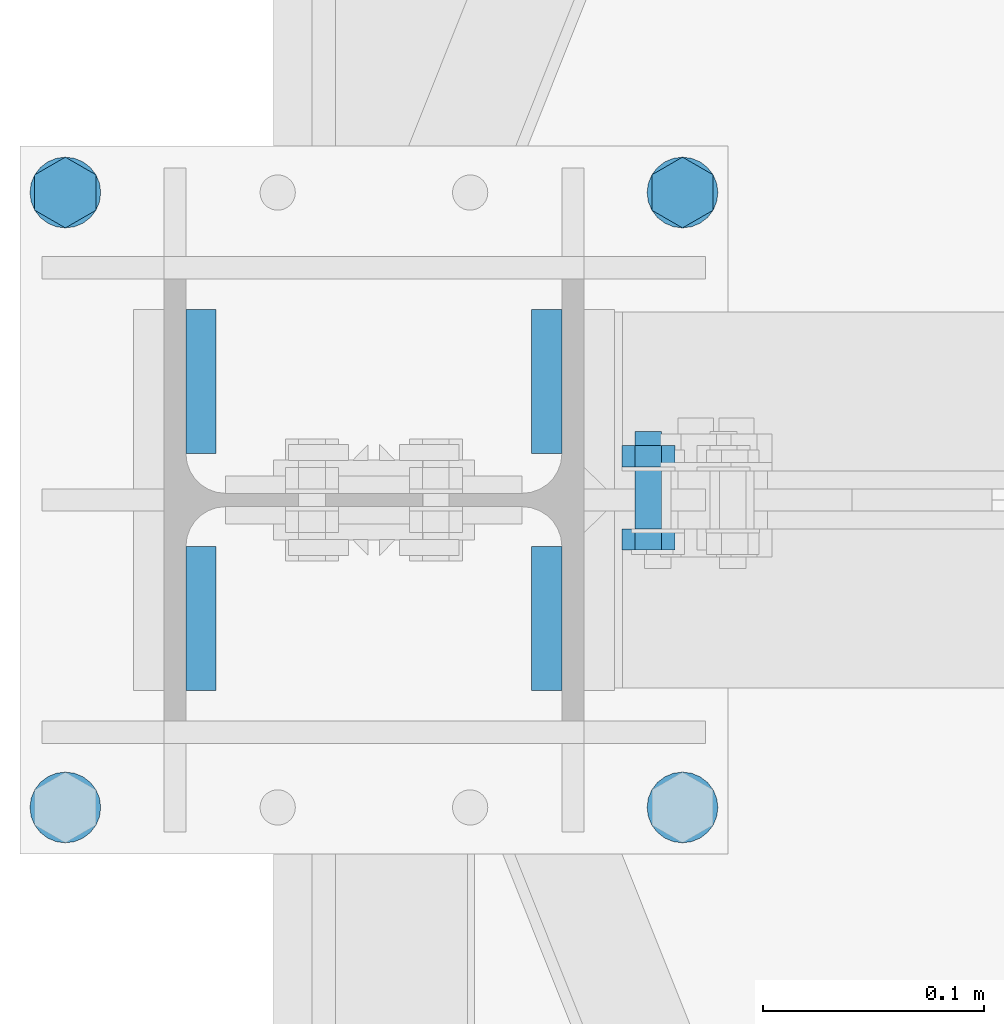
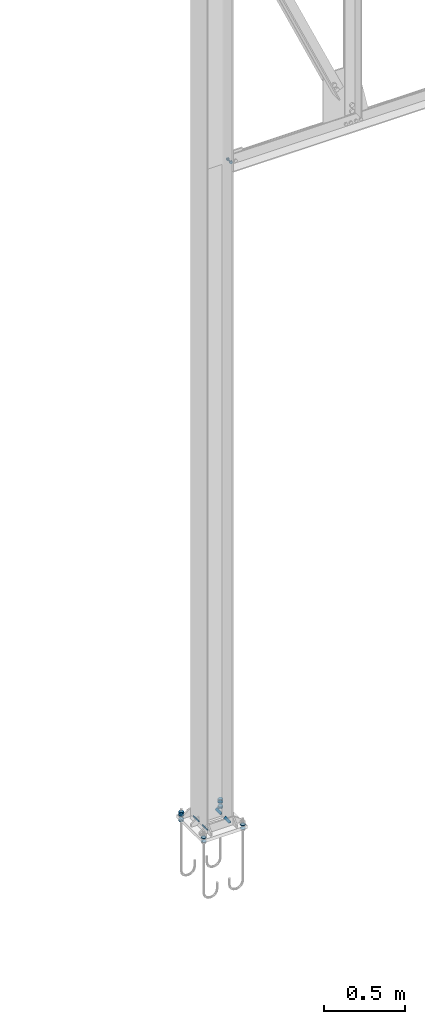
# One storey, part 73 of 251: 17 mechanical fasteners, 8 fasteners.
"""IFC4 building model written with IfcOpenShell, lengths in metres."""

from ifc_helpers import new_model, si_unit, frame, origin_with_axes, place, context, project, spatial, polyline, outline, extrude, type_object, element, save


model = new_model("IFC4")

# Units and contexts
model_context = context("Model", 3, precision=1e-05, world=origin_with_axes())
ifc_project = project(units=[si_unit("LENGTHUNIT", "METRE"), si_unit("AREAUNIT", "SQUARE_METRE"), si_unit("VOLUMEUNIT", "CUBIC_METRE"), si_unit("MASSUNIT", "GRAM", prefix="KILO"), si_unit("TIMEUNIT", "SECOND"), si_unit("PLANEANGLEUNIT", "RADIAN"), si_unit("SOLIDANGLEUNIT", "STERADIAN"), si_unit("THERMODYNAMICTEMPERATUREUNIT", "DEGREE_CELSIUS")], contexts=[model_context])

# Site, building, storey
placement_1 = place(None, origin_with_axes())
site = spatial("IfcSite", under=ifc_project, at=placement_1, Name="Italia", CompositionType="ELEMENT")
building = spatial("IfcBuilding", under=site, at=placement_1, Name="Deposito", CompositionType="ELEMENT")
storey = spatial("IfcBuildingStorey", under=building, at=placement_1, Name="Storey 0", CompositionType="ELEMENT", Elevation=0.0)

# Fasteners
fastener_type_1 = type_object("IfcFastenerType", Name="Collegamenti 0014_-001 0016_-054 0018_-056 0032_-002 0033_-058 0047_-003 0048_-060 0062_-004 0063_-005 0079_-008", PredefinedType="WELD")
placement_2 = place(placement_1, origin_with_axes())
fastener_1_placement = place(placement_2, origin_with_axes())
element("IfcFastener", 1, at=fastener_1_placement, inside=storey, type_object=fastener_type_1, Name="Collegamenti 0014_-001 0016_-054 0018_-056 0032_-002 0033_-058 0047_-003 0048_-060 0062_-004 0063_-005 0079_-008", context=model_context, shape_type="SweptSolid", body=[
    extrude(outline(polyline([(0.0, 0.0), (0.0137482, 0.0141734), (0.0137482, 0.0), (0.0, 0.0)])), frame((5.9787, 5.02095, 0.07495), z_axis=(0.0, 1.0, 0.0), x_axis=(-1.0, 0.0, 0.0)), (0.0, 0.0, 1.0), 0.0651002),
])
fastener_type_2 = type_object("IfcFastenerType", Name="Collegamenti 0014_-001 0016_-054 0018_-056 0032_-002 0033_-058 0047_-003 0048_-060 0062_-004 0063_-005 0079_-008", PredefinedType="WELD")
fastener_2_placement = place(placement_2, origin_with_axes())
element("IfcFastener", 2, at=fastener_2_placement, inside=storey, type_object=fastener_type_2, Name="Collegamenti 0014_-001 0016_-054 0018_-056 0032_-002 0033_-058 0047_-003 0048_-060 0062_-004 0063_-005 0079_-008", context=model_context, shape_type="SweptSolid", body=[
    extrude(outline(polyline([(0.0, 0.0), (0.0137482, 0.0141734), (0.0137482, 0.0), (0.0, 0.0)])), frame((6.1213, 5.08605, 0.07495), z_axis=(0.0, -1.0, 0.0), x_axis=(1.0, 0.0, 0.0)), (0.0, 0.0, 1.0), 0.0651002),
])
fastener_type_3 = type_object("IfcFastenerType", Name="Collegamenti 0014_-001 0016_-054 0018_-056 0032_-002 0033_-058 0047_-003 0048_-060 0062_-004 0063_-005 0079_-008", PredefinedType="WELD")
fastener_3_placement = place(placement_2, origin_with_axes())
element("IfcFastener", 3, at=fastener_3_placement, inside=storey, type_object=fastener_type_3, Name="Collegamenti 0014_-001 0016_-054 0018_-056 0032_-002 0033_-058 0047_-003 0048_-060 0062_-004 0063_-005 0079_-008", context=model_context, shape_type="SweptSolid", body=[
    extrude(outline(polyline([(0.0, 0.0), (0.0137482, 0.0141734), (0.0137482, 0.0), (0.0, 0.0)])), frame((6.1213, 4.97905, 0.07495), z_axis=(0.0, -1.0, 0.0), x_axis=(1.0, 0.0, 0.0)), (0.0, 0.0, 1.0), 0.0651002),
])
fastener_type_4 = type_object("IfcFastenerType", Name="Collegamenti 0014_-001 0016_-054 0018_-056 0032_-002 0033_-058 0047_-003 0048_-060 0062_-004 0063_-005 0079_-008", PredefinedType="WELD")
fastener_4_placement = place(placement_2, origin_with_axes())
element("IfcFastener", 4, at=fastener_4_placement, inside=storey, type_object=fastener_type_4, Name="Collegamenti 0014_-001 0016_-054 0018_-056 0032_-002 0033_-058 0047_-003 0048_-060 0062_-004 0063_-005 0079_-008", context=model_context, shape_type="SweptSolid", body=[
    extrude(outline(polyline([(0.0, 0.0), (0.0137482, 0.0141734), (0.0137482, 0.0), (0.0, 0.0)])), frame((5.9787, 4.91395, 0.07495), z_axis=(0.0, 1.0, 0.0), x_axis=(-1.0, 0.0, 0.0)), (0.0, 0.0, 1.0), 0.0651002),
])
fastener_type_5 = type_object("IfcFastenerType", Name="Collegamenti 0014_-001 0016_-054 0018_-056 0032_-002 0033_-058 0047_-003 0048_-060 0062_-004 0063_-005 0079_-008", PredefinedType="WELD")
fastener_5_placement = place(placement_2, origin_with_axes())
element("IfcFastener", 5, at=fastener_5_placement, inside=storey, type_object=fastener_type_5, Name="Collegamenti 0014_-001 0016_-054 0018_-056 0032_-002 0033_-058 0047_-003 0048_-060 0062_-004 0063_-005 0079_-008", context=model_context, shape_type="SweptSolid", body=[
    extrude(outline(polyline([(0.0, 0.0), (0.0137482, 0.0141734), (0.0137482, 0.0), (0.0, 0.0)])), frame((5.9787, 5.02095, 0.07495), z_axis=(0.0, 1.0, 0.0), x_axis=(-1.0, 0.0, 0.0)), (0.0, 0.0, 1.0), 0.0651002),
])
fastener_type_6 = type_object("IfcFastenerType", Name="Collegamenti 0014_-001 0016_-054 0018_-056 0032_-002 0033_-058 0047_-003 0048_-060 0062_-004 0063_-005 0079_-008", PredefinedType="WELD")
fastener_6_placement = place(placement_2, origin_with_axes())
element("IfcFastener", 6, at=fastener_6_placement, inside=storey, type_object=fastener_type_6, Name="Collegamenti 0014_-001 0016_-054 0018_-056 0032_-002 0033_-058 0047_-003 0048_-060 0062_-004 0063_-005 0079_-008", context=model_context, shape_type="SweptSolid", body=[
    extrude(outline(polyline([(0.0, 0.0), (0.0137482, 0.0141734), (0.0137482, 0.0), (0.0, 0.0)])), frame((6.1213, 5.08605, 0.07495), z_axis=(0.0, -1.0, 0.0), x_axis=(1.0, 0.0, 0.0)), (0.0, 0.0, 1.0), 0.0651002),
])
fastener_type_7 = type_object("IfcFastenerType", Name="Collegamenti 0014_-001 0016_-054 0018_-056 0032_-002 0033_-058 0047_-003 0048_-060 0062_-004 0063_-005 0079_-008", PredefinedType="WELD")
fastener_7_placement = place(placement_2, origin_with_axes())
element("IfcFastener", 7, at=fastener_7_placement, inside=storey, type_object=fastener_type_7, Name="Collegamenti 0014_-001 0016_-054 0018_-056 0032_-002 0033_-058 0047_-003 0048_-060 0062_-004 0063_-005 0079_-008", context=model_context, shape_type="SweptSolid", body=[
    extrude(outline(polyline([(0.0, 0.0), (0.0137482, 0.0141734), (0.0137482, 0.0), (0.0, 0.0)])), frame((6.1213, 4.97905, 0.07495), z_axis=(0.0, -1.0, 0.0), x_axis=(1.0, 0.0, 0.0)), (0.0, 0.0, 1.0), 0.0651002),
])
fastener_type_8 = type_object("IfcFastenerType", Name="Collegamenti 0014_-001 0016_-054 0018_-056 0032_-002 0033_-058 0047_-003 0048_-060 0062_-004 0063_-005 0079_-008", PredefinedType="WELD")
fastener_8_placement = place(placement_2, origin_with_axes())
element("IfcFastener", 8, at=fastener_8_placement, inside=storey, type_object=fastener_type_8, Name="Collegamenti 0014_-001 0016_-054 0018_-056 0032_-002 0033_-058 0047_-003 0048_-060 0062_-004 0063_-005 0079_-008", context=model_context, shape_type="SweptSolid", body=[
    extrude(outline(polyline([(0.0, 0.0), (0.0137482, 0.0141734), (0.0137482, 0.0), (0.0, 0.0)])), frame((5.9787, 4.91395, 0.07495), z_axis=(0.0, 1.0, 0.0), x_axis=(-1.0, 0.0, 0.0)), (0.0, 0.0, 1.0), 0.0651002),
])

# Mechanical fasteners
mechanical_fastener_type_1 = type_object("IfcMechanicalFastenerType", Name="Collegamenti 0014_-001 0016_-054 0018_-056 0032_-002 0033_-058 0047_-003 0048_-060 0062_-004 0063_-005 0079_-008", PredefinedType="BOLT")
mechanical_fastener_1_placement = place(placement_2, origin_with_axes())
element("IfcMechanicalFastener", 9, at=mechanical_fastener_1_placement, inside=storey, type_object=mechanical_fastener_type_1, Name="Collegamenti 0014_-001 0016_-054 0018_-056 0032_-002 0033_-058 0047_-003 0048_-060 0062_-004 0063_-005 0079_-008", NominalDiameter=0.032, context=model_context, shape_type="SweptSolid", body=[
    extrude(outline(polyline([(0.0, 0.0), (-0.000545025, -0.00414133), (-0.00214338, -0.0079999), (-0.00468588, -0.0113139), (-0.0079999, -0.0138564), (-0.0118585, -0.0154548), (-0.0159998, -0.0159998), (-0.0201411, -0.0154548), (-0.0239997, -0.0138564), (-0.0273137, -0.0113139), (-0.0298562, -0.0079999), (-0.0314546, -0.00414133), (-0.0319996, 0.0), (-0.0314546, 0.00414133), (-0.0298562, 0.0079999), (-0.0273137, 0.0113139), (-0.0239997, 0.0138564), (-0.0201411, 0.0154548), (-0.0159998, 0.0159998), (-0.0118585, 0.0154548), (-0.0079999, 0.0138564), (-0.00468588, 0.0113139), (-0.00214338, 0.0079999), (-0.000545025, 0.00414133), (0.0, 0.0)])), frame((6.1895, 4.877, 0.075), z_axis=(0.0, 0.0, 1.0), x_axis=(0.0, 1.0, 0.0)), (0.0, 0.0, 1.0), 0.00399999),
])
mechanical_fastener_type_2 = type_object("IfcMechanicalFastenerType", Name="Collegamenti 0014_-001 0016_-054 0018_-056 0032_-002 0033_-058 0047_-003 0048_-060 0062_-004 0063_-005 0079_-008", PredefinedType="BOLT")
mechanical_fastener_2_placement = place(placement_2, origin_with_axes())
element("IfcMechanicalFastener", 10, at=mechanical_fastener_2_placement, inside=storey, type_object=mechanical_fastener_type_2, Name="Collegamenti 0014_-001 0016_-054 0018_-056 0032_-002 0033_-058 0047_-003 0048_-060 0062_-004 0063_-005 0079_-008", NominalDiameter=0.032, context=model_context, shape_type="SweptSolid", body=[
    extrude(outline(polyline([(0.0, 0.0), (-0.000545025, -0.00414133), (-0.00214338, -0.0079999), (-0.00468588, -0.0113139), (-0.0079999, -0.0138564), (-0.0118585, -0.0154548), (-0.0159998, -0.0159998), (-0.0201411, -0.0154548), (-0.0239997, -0.0138564), (-0.0273137, -0.0113139), (-0.0298562, -0.0079999), (-0.0314546, -0.00414133), (-0.0319996, 0.0), (-0.0314546, 0.00414133), (-0.0298562, 0.0079999), (-0.0273137, 0.0113139), (-0.0239997, 0.0138564), (-0.0201411, 0.0154548), (-0.0159998, 0.0159998), (-0.0118585, 0.0154548), (-0.0079999, 0.0138564), (-0.00468588, 0.0113139), (-0.00214338, 0.0079999), (-0.000545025, 0.00414133), (0.0, 0.0)])), frame((6.1895, 4.877, 0.046), z_axis=(0.0, 0.0, 1.0), x_axis=(0.0, 1.0, 0.0)), (0.0, 0.0, 1.0), 0.004),
])
mechanical_fastener_type_3 = type_object("IfcMechanicalFastenerType", Name="Collegamenti 0014_-001 0016_-054 0018_-056 0032_-002 0033_-058 0047_-003 0048_-060 0062_-004 0063_-005 0079_-008", PredefinedType="BOLT")
mechanical_fastener_3_placement = place(placement_2, origin_with_axes())
element("IfcMechanicalFastener", 11, at=mechanical_fastener_3_placement, inside=storey, type_object=mechanical_fastener_type_3, Name="Collegamenti 0014_-001 0016_-054 0018_-056 0032_-002 0033_-058 0047_-003 0048_-060 0062_-004 0063_-005 0079_-008", NominalDiameter=0.0159998, context=model_context, shape_type="SweptSolid", body=[
    extrude(outline(polyline([(0.0, 0.0), (-0.0159998, 0.0), (-0.0239997, 0.0138569), (-0.0159998, 0.0277138), (0.0, 0.0277138), (0.00800037, 0.0138569), (0.0, 0.0)])), frame((6.20336, 5.147, 0.079), z_axis=(0.0, 0.0, 1.0), x_axis=(0.0, 1.0, 0.0)), (0.0, 0.0, 1.0), 0.0128),
])
mechanical_fastener_type_4 = type_object("IfcMechanicalFastenerType", Name="Collegamenti 0014_-001 0016_-054 0018_-056 0032_-002 0033_-058 0047_-003 0048_-060 0062_-004 0063_-005 0079_-008", PredefinedType="BOLT")
mechanical_fastener_4_placement = place(placement_2, origin_with_axes())
element("IfcMechanicalFastener", 12, at=mechanical_fastener_4_placement, inside=storey, type_object=mechanical_fastener_type_4, Name="Collegamenti 0014_-001 0016_-054 0018_-056 0032_-002 0033_-058 0047_-003 0048_-060 0062_-004 0063_-005 0079_-008", NominalDiameter=0.0159998, context=model_context, shape_type="SweptSolid", body=[
    extrude(outline(polyline([(0.0, 0.0), (-0.0159998, 0.0), (-0.0239997, 0.0138569), (-0.0159998, 0.0277138), (0.0, 0.0277138), (0.00800037, 0.0138569), (0.0, 0.0)])), frame((6.20336, 5.147, 0.0918), z_axis=(0.0, 0.0, 1.0), x_axis=(0.0, 1.0, 0.0)), (0.0, 0.0, 1.0), 0.0128),
])
mechanical_fastener_type_5 = type_object("IfcMechanicalFastenerType", Name="Collegamenti 0014_-001 0016_-054 0018_-056 0032_-002 0033_-058 0047_-003 0048_-060 0062_-004 0063_-005 0079_-008", PredefinedType="BOLT")
mechanical_fastener_5_placement = place(placement_2, origin_with_axes())
element("IfcMechanicalFastener", 13, at=mechanical_fastener_5_placement, inside=storey, type_object=mechanical_fastener_type_5, Name="Collegamenti 0014_-001 0016_-054 0018_-056 0032_-002 0033_-058 0047_-003 0048_-060 0062_-004 0063_-005 0079_-008", NominalDiameter=0.0159998, context=model_context, shape_type="SweptSolid", body=[
    extrude(outline(polyline([(0.0, 0.0), (-0.0159998, 0.0), (-0.0239997, 0.0138569), (-0.0159998, 0.0277138), (0.0, 0.0277138), (0.00800037, 0.0138569), (0.0, 0.0)])), frame((6.20336, 5.147, 0.0332), z_axis=(0.0, 0.0, 1.0), x_axis=(0.0, 1.0, 0.0)), (0.0, 0.0, 1.0), 0.0128),
])
mechanical_fastener_type_6 = type_object("IfcMechanicalFastenerType", Name="Collegamenti 0014_-001 0016_-054 0018_-056 0032_-002 0033_-058 0047_-003 0048_-060 0062_-004 0063_-005 0079_-008", PredefinedType="BOLT")
mechanical_fastener_6_placement = place(placement_2, origin_with_axes())
element("IfcMechanicalFastener", 14, at=mechanical_fastener_6_placement, inside=storey, type_object=mechanical_fastener_type_6, Name="Collegamenti 0014_-001 0016_-054 0018_-056 0032_-002 0033_-058 0047_-003 0048_-060 0062_-004 0063_-005 0079_-008", NominalDiameter=0.032, context=model_context, shape_type="SweptSolid", body=[
    extrude(outline(polyline([(0.0, 0.0), (-0.000545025, -0.00414133), (-0.00214338, -0.0079999), (-0.00468588, -0.0113139), (-0.0079999, -0.0138564), (-0.0118585, -0.0154548), (-0.0159998, -0.0159998), (-0.0201411, -0.0154548), (-0.0239997, -0.0138564), (-0.0273137, -0.0113139), (-0.0298562, -0.0079999), (-0.0314546, -0.00414133), (-0.0319996, 0.0), (-0.0314546, 0.00414133), (-0.0298562, 0.0079999), (-0.0273137, 0.0113139), (-0.0239997, 0.0138564), (-0.0201411, 0.0154548), (-0.0159998, 0.0159998), (-0.0118585, 0.0154548), (-0.0079999, 0.0138564), (-0.00468588, 0.0113139), (-0.00214338, 0.0079999), (-0.000545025, 0.00414133), (0.0, 0.0)])), frame((6.1895, 5.155, 0.075), z_axis=(0.0, 0.0, 1.0), x_axis=(0.0, 1.0, 0.0)), (0.0, 0.0, 1.0), 0.00399999),
])
mechanical_fastener_type_7 = type_object("IfcMechanicalFastenerType", Name="Collegamenti 0014_-001 0016_-054 0018_-056 0032_-002 0033_-058 0047_-003 0048_-060 0062_-004 0063_-005 0079_-008", PredefinedType="BOLT")
mechanical_fastener_7_placement = place(placement_2, origin_with_axes())
element("IfcMechanicalFastener", 15, at=mechanical_fastener_7_placement, inside=storey, type_object=mechanical_fastener_type_7, Name="Collegamenti 0014_-001 0016_-054 0018_-056 0032_-002 0033_-058 0047_-003 0048_-060 0062_-004 0063_-005 0079_-008", NominalDiameter=0.032, context=model_context, shape_type="SweptSolid", body=[
    extrude(outline(polyline([(0.0, 0.0), (-0.000545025, -0.00414133), (-0.00214338, -0.0079999), (-0.00468588, -0.0113139), (-0.0079999, -0.0138564), (-0.0118585, -0.0154548), (-0.0159998, -0.0159998), (-0.0201411, -0.0154548), (-0.0239997, -0.0138564), (-0.0273137, -0.0113139), (-0.0298562, -0.0079999), (-0.0314546, -0.00414133), (-0.0319996, 0.0), (-0.0314546, 0.00414133), (-0.0298562, 0.0079999), (-0.0273137, 0.0113139), (-0.0239997, 0.0138564), (-0.0201411, 0.0154548), (-0.0159998, 0.0159998), (-0.0118585, 0.0154548), (-0.0079999, 0.0138564), (-0.00468588, 0.0113139), (-0.00214338, 0.0079999), (-0.000545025, 0.00414133), (0.0, 0.0)])), frame((6.1895, 5.155, 0.046), z_axis=(0.0, 0.0, 1.0), x_axis=(0.0, 1.0, 0.0)), (0.0, 0.0, 1.0), 0.004),
])
mechanical_fastener_type_8 = type_object("IfcMechanicalFastenerType", Name="Collegamenti 0014_-001 0016_-054 0018_-056 0032_-002 0033_-058 0047_-003 0048_-060 0062_-004 0063_-005 0079_-008", PredefinedType="BOLT")
mechanical_fastener_8_placement = place(placement_2, origin_with_axes())
element("IfcMechanicalFastener", 16, at=mechanical_fastener_8_placement, inside=storey, type_object=mechanical_fastener_type_8, Name="Collegamenti 0014_-001 0016_-054 0018_-056 0032_-002 0033_-058 0047_-003 0048_-060 0062_-004 0063_-005 0079_-008", NominalDiameter=0.032, context=model_context, shape_type="SweptSolid", body=[
    extrude(outline(polyline([(0.0, 0.0), (-0.000545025, -0.00414133), (-0.00214338, -0.0079999), (-0.00468588, -0.0113139), (-0.0079999, -0.0138564), (-0.0118585, -0.0154548), (-0.0159998, -0.0159998), (-0.0201411, -0.0154548), (-0.0239997, -0.0138564), (-0.0273137, -0.0113139), (-0.0298562, -0.0079999), (-0.0314546, -0.00414133), (-0.0319996, 0.0), (-0.0314546, 0.00414133), (-0.0298562, 0.0079999), (-0.0273137, 0.0113139), (-0.0239997, 0.0138564), (-0.0201411, 0.0154548), (-0.0159998, 0.0159998), (-0.0118585, 0.0154548), (-0.0079999, 0.0138564), (-0.00468588, 0.0113139), (-0.00214338, 0.0079999), (-0.000545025, 0.00414133), (0.0, 0.0)])), frame((5.9105, 4.877, 0.075), z_axis=(0.0, 0.0, 1.0), x_axis=(0.0, 1.0, 0.0)), (0.0, 0.0, 1.0), 0.00399999),
])
mechanical_fastener_type_9 = type_object("IfcMechanicalFastenerType", Name="Collegamenti 0014_-001 0016_-054 0018_-056 0032_-002 0033_-058 0047_-003 0048_-060 0062_-004 0063_-005 0079_-008", PredefinedType="BOLT")
mechanical_fastener_9_placement = place(placement_2, origin_with_axes())
element("IfcMechanicalFastener", 17, at=mechanical_fastener_9_placement, inside=storey, type_object=mechanical_fastener_type_9, Name="Collegamenti 0014_-001 0016_-054 0018_-056 0032_-002 0033_-058 0047_-003 0048_-060 0062_-004 0063_-005 0079_-008", NominalDiameter=0.032, context=model_context, shape_type="SweptSolid", body=[
    extrude(outline(polyline([(0.0, 0.0), (-0.000545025, -0.00414133), (-0.00214338, -0.0079999), (-0.00468588, -0.0113139), (-0.0079999, -0.0138564), (-0.0118585, -0.0154548), (-0.0159998, -0.0159998), (-0.0201411, -0.0154548), (-0.0239997, -0.0138564), (-0.0273137, -0.0113139), (-0.0298562, -0.0079999), (-0.0314546, -0.00414133), (-0.0319996, 0.0), (-0.0314546, 0.00414133), (-0.0298562, 0.0079999), (-0.0273137, 0.0113139), (-0.0239997, 0.0138564), (-0.0201411, 0.0154548), (-0.0159998, 0.0159998), (-0.0118585, 0.0154548), (-0.0079999, 0.0138564), (-0.00468588, 0.0113139), (-0.00214338, 0.0079999), (-0.000545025, 0.00414133), (0.0, 0.0)])), frame((5.9105, 4.877, 0.046), z_axis=(0.0, 0.0, 1.0), x_axis=(0.0, 1.0, 0.0)), (0.0, 0.0, 1.0), 0.004),
])
mechanical_fastener_type_10 = type_object("IfcMechanicalFastenerType", Name="Collegamenti 0014_-001 0016_-054 0018_-056 0032_-002 0033_-058 0047_-003 0048_-060 0062_-004 0063_-005 0079_-008", PredefinedType="BOLT")
mechanical_fastener_10_placement = place(placement_2, origin_with_axes())
element("IfcMechanicalFastener", 18, at=mechanical_fastener_10_placement, inside=storey, type_object=mechanical_fastener_type_10, Name="Collegamenti 0014_-001 0016_-054 0018_-056 0032_-002 0033_-058 0047_-003 0048_-060 0062_-004 0063_-005 0079_-008", NominalDiameter=0.0159998, context=model_context, shape_type="SweptSolid", body=[
    extrude(outline(polyline([(0.0, 0.0), (-0.0159998, 0.0), (-0.0239997, 0.0138569), (-0.0159998, 0.0277138), (0.0, 0.0277138), (0.00800037, 0.0138569), (0.0, 0.0)])), frame((5.92436, 5.147, 0.079), z_axis=(0.0, 0.0, 1.0), x_axis=(0.0, 1.0, 0.0)), (0.0, 0.0, 1.0), 0.0128),
])
mechanical_fastener_type_11 = type_object("IfcMechanicalFastenerType", Name="Collegamenti 0014_-001 0016_-054 0018_-056 0032_-002 0033_-058 0047_-003 0048_-060 0062_-004 0063_-005 0079_-008", PredefinedType="BOLT")
mechanical_fastener_11_placement = place(placement_2, origin_with_axes())
element("IfcMechanicalFastener", 19, at=mechanical_fastener_11_placement, inside=storey, type_object=mechanical_fastener_type_11, Name="Collegamenti 0014_-001 0016_-054 0018_-056 0032_-002 0033_-058 0047_-003 0048_-060 0062_-004 0063_-005 0079_-008", NominalDiameter=0.0159998, context=model_context, shape_type="SweptSolid", body=[
    extrude(outline(polyline([(0.0, 0.0), (-0.0159998, 0.0), (-0.0239997, 0.0138569), (-0.0159998, 0.0277138), (0.0, 0.0277138), (0.00800037, 0.0138569), (0.0, 0.0)])), frame((5.92436, 5.147, 0.0918), z_axis=(0.0, 0.0, 1.0), x_axis=(0.0, 1.0, 0.0)), (0.0, 0.0, 1.0), 0.0128),
])
mechanical_fastener_type_12 = type_object("IfcMechanicalFastenerType", Name="Collegamenti 0014_-001 0016_-054 0018_-056 0032_-002 0033_-058 0047_-003 0048_-060 0062_-004 0063_-005 0079_-008", PredefinedType="BOLT")
mechanical_fastener_12_placement = place(placement_2, origin_with_axes())
element("IfcMechanicalFastener", 20, at=mechanical_fastener_12_placement, inside=storey, type_object=mechanical_fastener_type_12, Name="Collegamenti 0014_-001 0016_-054 0018_-056 0032_-002 0033_-058 0047_-003 0048_-060 0062_-004 0063_-005 0079_-008", NominalDiameter=0.0159998, context=model_context, shape_type="SweptSolid", body=[
    extrude(outline(polyline([(0.0, 0.0), (-0.0159998, 0.0), (-0.0239997, 0.0138569), (-0.0159998, 0.0277138), (0.0, 0.0277138), (0.00800037, 0.0138569), (0.0, 0.0)])), frame((5.92436, 5.147, 0.0332), z_axis=(0.0, 0.0, 1.0), x_axis=(0.0, 1.0, 0.0)), (0.0, 0.0, 1.0), 0.0128),
])
mechanical_fastener_type_13 = type_object("IfcMechanicalFastenerType", Name="Collegamenti 0014_-001 0016_-054 0018_-056 0032_-002 0033_-058 0047_-003 0048_-060 0062_-004 0063_-005 0079_-008", PredefinedType="BOLT")
mechanical_fastener_13_placement = place(placement_2, origin_with_axes())
element("IfcMechanicalFastener", 21, at=mechanical_fastener_13_placement, inside=storey, type_object=mechanical_fastener_type_13, Name="Collegamenti 0014_-001 0016_-054 0018_-056 0032_-002 0033_-058 0047_-003 0048_-060 0062_-004 0063_-005 0079_-008", NominalDiameter=0.032, context=model_context, shape_type="SweptSolid", body=[
    extrude(outline(polyline([(0.0, 0.0), (-0.000545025, -0.00414133), (-0.00214338, -0.0079999), (-0.00468588, -0.0113139), (-0.0079999, -0.0138564), (-0.0118585, -0.0154548), (-0.0159998, -0.0159998), (-0.0201411, -0.0154548), (-0.0239997, -0.0138564), (-0.0273137, -0.0113139), (-0.0298562, -0.0079999), (-0.0314546, -0.00414133), (-0.0319996, 0.0), (-0.0314546, 0.00414133), (-0.0298562, 0.0079999), (-0.0273137, 0.0113139), (-0.0239997, 0.0138564), (-0.0201411, 0.0154548), (-0.0159998, 0.0159998), (-0.0118585, 0.0154548), (-0.0079999, 0.0138564), (-0.00468588, 0.0113139), (-0.00214338, 0.0079999), (-0.000545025, 0.00414133), (0.0, 0.0)])), frame((5.9105, 5.155, 0.075), z_axis=(0.0, 0.0, 1.0), x_axis=(0.0, 1.0, 0.0)), (0.0, 0.0, 1.0), 0.00399999),
])
mechanical_fastener_type_14 = type_object("IfcMechanicalFastenerType", Name="Collegamenti 0014_-001 0016_-054 0018_-056 0032_-002 0033_-058 0047_-003 0048_-060 0062_-004 0063_-005 0079_-008", PredefinedType="BOLT")
mechanical_fastener_14_placement = place(placement_2, origin_with_axes())
element("IfcMechanicalFastener", 22, at=mechanical_fastener_14_placement, inside=storey, type_object=mechanical_fastener_type_14, Name="Collegamenti 0014_-001 0016_-054 0018_-056 0032_-002 0033_-058 0047_-003 0048_-060 0062_-004 0063_-005 0079_-008", NominalDiameter=0.032, context=model_context, shape_type="SweptSolid", body=[
    extrude(outline(polyline([(0.0, 0.0), (-0.000545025, -0.00414133), (-0.00214338, -0.0079999), (-0.00468588, -0.0113139), (-0.0079999, -0.0138564), (-0.0118585, -0.0154548), (-0.0159998, -0.0159998), (-0.0201411, -0.0154548), (-0.0239997, -0.0138564), (-0.0273137, -0.0113139), (-0.0298562, -0.0079999), (-0.0314546, -0.00414133), (-0.0319996, 0.0), (-0.0314546, 0.00414133), (-0.0298562, 0.0079999), (-0.0273137, 0.0113139), (-0.0239997, 0.0138564), (-0.0201411, 0.0154548), (-0.0159998, 0.0159998), (-0.0118585, 0.0154548), (-0.0079999, 0.0138564), (-0.00468588, 0.0113139), (-0.00214338, 0.0079999), (-0.000545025, 0.00414133), (0.0, 0.0)])), frame((5.9105, 5.155, 0.046), z_axis=(0.0, 0.0, 1.0), x_axis=(0.0, 1.0, 0.0)), (0.0, 0.0, 1.0), 0.004),
])
mechanical_fastener_type_15 = type_object("IfcMechanicalFastenerType", Name="Reticolare 3", PredefinedType="BOLT")
mechanical_fastener_15_placement = place(placement_2, origin_with_axes())
element("IfcMechanicalFastener", 23, at=mechanical_fastener_15_placement, inside=storey, type_object=mechanical_fastener_type_15, Name="Reticolare 3", NominalDiameter=0.0119999, context=model_context, shape_type="SweptSolid", body=[
    extrude(outline(polyline([(0.0, 0.0), (-0.0120001, 0.0), (-0.0180001, 0.0103922), (-0.0120001, 0.0207844), (0.0, 0.0207844), (0.00600004, 0.0103922), (0.0, 0.0)])), frame((6.18005, 4.987, 4.99661), z_axis=(0.0, -1.0, 0.0), x_axis=(1.0, 0.0, 0.0)), (0.0, 0.0, 1.0), 0.00960016),
])
mechanical_fastener_type_16 = type_object("IfcMechanicalFastenerType", Name="Reticolare 3", PredefinedType="BOLT")
mechanical_fastener_16_placement = place(placement_2, origin_with_axes())
element("IfcMechanicalFastener", 24, at=mechanical_fastener_16_placement, inside=storey, type_object=mechanical_fastener_type_16, Name="Reticolare 3", NominalDiameter=0.012, context=model_context, shape_type="SweptSolid", body=[
    extrude(outline(polyline([(0.0, 0.0), (-0.000204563, -0.00155306), (-0.000803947, -0.00299978), (-0.00175762, -0.00424242), (-0.00300026, -0.00519609), (-0.00444698, -0.00579548), (-0.00600004, -0.00600004), (-0.0075531, -0.00579548), (-0.00899982, -0.00519609), (-0.0102425, -0.00424242), (-0.0111961, -0.00299978), (-0.0117955, -0.00155306), (-0.0120001, 0.0), (-0.0117955, 0.00155306), (-0.0111961, 0.00299978), (-0.0102425, 0.00424242), (-0.00899982, 0.00519609), (-0.0075531, 0.00579548), (-0.00600004, 0.00600004), (-0.00444698, 0.00579548), (-0.00300026, 0.00519609), (-0.00175762, 0.00424242), (-0.000803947, 0.00299978), (-0.000204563, 0.00155306), (0.0, 0.0)])), frame((6.18005, 5.031, 5.007), z_axis=(0.0, -1.0, 0.0), x_axis=(1.0, 0.0, 0.0)), (0.0, 0.0, 1.0), 0.0440001),
])
mechanical_fastener_type_17 = type_object("IfcMechanicalFastenerType", Name="Reticolare 3", PredefinedType="BOLT")
mechanical_fastener_17_placement = place(placement_2, origin_with_axes())
element("IfcMechanicalFastener", 25, at=mechanical_fastener_17_placement, inside=storey, type_object=mechanical_fastener_type_17, Name="Reticolare 3", NominalDiameter=0.0119999, context=model_context, shape_type="SweptSolid", body=[
    extrude(outline(polyline([(0.0, 0.0), (-0.0120001, 0.0), (-0.0180001, 0.0103922), (-0.0120001, 0.0207844), (0.0, 0.0207844), (0.00600004, 0.0103922), (0.0, 0.0)])), frame((6.18005, 5.0246, 4.99661), z_axis=(0.0, -1.0, 0.0), x_axis=(1.0, 0.0, 0.0)), (0.0, 0.0, 1.0), 0.00960016),
])

save(model, "model.ifc")
